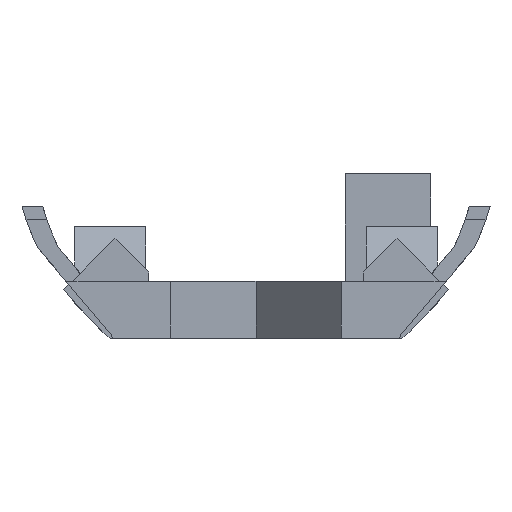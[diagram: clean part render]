
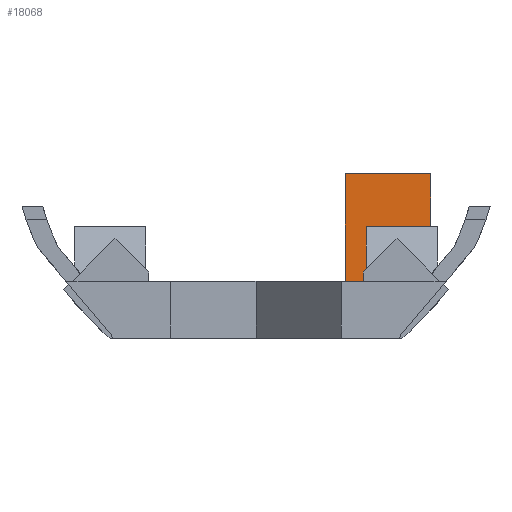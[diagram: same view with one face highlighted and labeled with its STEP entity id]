
A CAD part, left-side view. The second image highlights one B-rep face of the part: STEP entity #18068.
In plain terms, the highlighted planar face has unit normal (-1, 0, 0).
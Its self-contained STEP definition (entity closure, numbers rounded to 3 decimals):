
#32 = PLANE('',#33);
#33 = AXIS2_PLACEMENT_3D('',#34,#35,#36);
#34 = CARTESIAN_POINT('',(71.,-22.,-10.8));
#35 = DIRECTION('',(0.,0.,-1.));
#36 = DIRECTION('',(1.,0.,0.));
#1276 = PLANE('',#1277);
#1277 = AXIS2_PLACEMENT_3D('',#1278,#1279,#1280);
#1278 = CARTESIAN_POINT('',(66.,-59.724,44.8));
#1279 = DIRECTION('',(-0.,0.766,0.643));
#1280 = DIRECTION('',(0.,0.643,-0.766));
#1529 = VERTEX_POINT('',#1530);
#1530 = CARTESIAN_POINT('',(171.5,-6.9,-10.8));
#1544 = PLANE('',#1545);
#1545 = AXIS2_PLACEMENT_3D('',#1546,#1547,#1548);
#1546 = CARTESIAN_POINT('',(171.5,-6.9,-11.3));
#1547 = DIRECTION('',(-0.,1.,0.));
#1548 = DIRECTION('',(0.,0.,1.));
#1555 = EDGE_CURVE('',#1529,#1556,#1558,.T.);
#1556 = VERTEX_POINT('',#1557);
#1557 = CARTESIAN_POINT('',(171.5,-13.078,-10.8));
#1558 = SURFACE_CURVE('',#1559,(#1563,#1570),.PCURVE_S1.);
#1559 = LINE('',#1560,#1561);
#1560 = CARTESIAN_POINT('',(171.5,-17.75,-10.8));
#1561 = VECTOR('',#1562,1.);
#1562 = DIRECTION('',(0.,-1.,0.));
#1563 = PCURVE('',#32,#1564);
#1564 = DEFINITIONAL_REPRESENTATION('',(#1565),#1569);
#1565 = LINE('',#1566,#1567);
#1566 = CARTESIAN_POINT('',(100.5,-4.25));
#1567 = VECTOR('',#1568,1.);
#1568 = DIRECTION('',(0.,1.));
#1569 = ( GEOMETRIC_REPRESENTATION_CONTEXT(2) 
PARAMETRIC_REPRESENTATION_CONTEXT() REPRESENTATION_CONTEXT('2D SPACE',''
  ) );
#1570 = PCURVE('',#1571,#1576);
#1571 = PLANE('',#1572);
#1572 = AXIS2_PLACEMENT_3D('',#1573,#1574,#1575);
#1573 = CARTESIAN_POINT('',(171.5,-13.5,-11.3));
#1574 = DIRECTION('',(1.,0.,-0.));
#1575 = DIRECTION('',(0.,0.,1.));
#1576 = DEFINITIONAL_REPRESENTATION('',(#1577),#1580);
#1577 = B_SPLINE_CURVE_WITH_KNOTS('',1,(#1578,#1579),.UNSPECIFIED.,.F.,
  .F.,(2,2),(-10.85,-4.25),.PIECEWISE_BEZIER_KNOTS.);
#1578 = CARTESIAN_POINT('',(0.5,-6.6));
#1579 = CARTESIAN_POINT('',(0.5,0.));
#1580 = ( GEOMETRIC_REPRESENTATION_CONTEXT(2) 
PARAMETRIC_REPRESENTATION_CONTEXT() REPRESENTATION_CONTEXT('2D SPACE',''
  ) );
#18068 = ADVANCED_FACE('',(#18069),#1571,.F.);
#18069 = FACE_BOUND('',#18070,.F.);
#18070 = EDGE_LOOP('',(#18071,#18101,#18120,#18121,#18144));
#18071 = ORIENTED_EDGE('',*,*,#18072,.F.);
#18072 = EDGE_CURVE('',#18073,#18075,#18077,.T.);
#18073 = VERTEX_POINT('',#18074);
#18074 = CARTESIAN_POINT('',(171.5,-13.5,-10.297));
#18075 = VERTEX_POINT('',#18076);
#18076 = CARTESIAN_POINT('',(171.5,-13.5,-2.5));
#18077 = SURFACE_CURVE('',#18078,(#18082,#18089),.PCURVE_S1.);
#18078 = LINE('',#18079,#18080);
#18079 = CARTESIAN_POINT('',(171.5,-13.5,-11.3));
#18080 = VECTOR('',#18081,1.);
#18081 = DIRECTION('',(0.,0.,1.));
#18082 = PCURVE('',#1571,#18083);
#18083 = DEFINITIONAL_REPRESENTATION('',(#18084),#18088);
#18084 = LINE('',#18085,#18086);
#18085 = CARTESIAN_POINT('',(0.,0.));
#18086 = VECTOR('',#18087,1.);
#18087 = DIRECTION('',(1.,0.));
#18088 = ( GEOMETRIC_REPRESENTATION_CONTEXT(2) 
PARAMETRIC_REPRESENTATION_CONTEXT() REPRESENTATION_CONTEXT('2D SPACE',''
  ) );
#18089 = PCURVE('',#18090,#18095);
#18090 = PLANE('',#18091);
#18091 = AXIS2_PLACEMENT_3D('',#18092,#18093,#18094);
#18092 = CARTESIAN_POINT('',(171.5,-13.5,-11.3));
#18093 = DIRECTION('',(-0.,1.,0.));
#18094 = DIRECTION('',(0.,0.,1.));
#18095 = DEFINITIONAL_REPRESENTATION('',(#18096),#18100);
#18096 = LINE('',#18097,#18098);
#18097 = CARTESIAN_POINT('',(0.,0.));
#18098 = VECTOR('',#18099,1.);
#18099 = DIRECTION('',(1.,0.));
#18100 = ( GEOMETRIC_REPRESENTATION_CONTEXT(2) 
PARAMETRIC_REPRESENTATION_CONTEXT() REPRESENTATION_CONTEXT('2D SPACE',''
  ) );
#18101 = ORIENTED_EDGE('',*,*,#18102,.T.);
#18102 = EDGE_CURVE('',#18073,#1556,#18103,.T.);
#18103 = SURFACE_CURVE('',#18104,(#18108,#18114),.PCURVE_S1.);
#18104 = LINE('',#18105,#18106);
#18105 = CARTESIAN_POINT('',(171.5,-36.365,16.957));
#18106 = VECTOR('',#18107,1.);
#18107 = DIRECTION('',(-0.,0.643,-0.766));
#18108 = PCURVE('',#1571,#18109);
#18109 = DEFINITIONAL_REPRESENTATION('',(#18110),#18113);
#18110 = B_SPLINE_CURVE_WITH_KNOTS('',1,(#18111,#18112),.UNSPECIFIED.,
  .F.,.F.,(2,2),(35.575,36.232),
  .PIECEWISE_BEZIER_KNOTS.);
#18111 = CARTESIAN_POINT('',(1.003,0.));
#18112 = CARTESIAN_POINT('',(0.5,-0.422));
#18113 = ( GEOMETRIC_REPRESENTATION_CONTEXT(2) 
PARAMETRIC_REPRESENTATION_CONTEXT() REPRESENTATION_CONTEXT('2D SPACE',''
  ) );
#18114 = PCURVE('',#1276,#18115);
#18115 = DEFINITIONAL_REPRESENTATION('',(#18116),#18119);
#18116 = B_SPLINE_CURVE_WITH_KNOTS('',1,(#18117,#18118),.UNSPECIFIED.,
  .F.,.F.,(2,2),(35.575,36.232),
  .PIECEWISE_BEZIER_KNOTS.);
#18117 = CARTESIAN_POINT('',(71.919,-105.5));
#18118 = CARTESIAN_POINT('',(72.576,-105.5));
#18119 = ( GEOMETRIC_REPRESENTATION_CONTEXT(2) 
PARAMETRIC_REPRESENTATION_CONTEXT() REPRESENTATION_CONTEXT('2D SPACE',''
  ) );
#18120 = ORIENTED_EDGE('',*,*,#1555,.F.);
#18121 = ORIENTED_EDGE('',*,*,#18122,.T.);
#18122 = EDGE_CURVE('',#1529,#18123,#18125,.T.);
#18123 = VERTEX_POINT('',#18124);
#18124 = CARTESIAN_POINT('',(171.5,-6.9,-2.5));
#18125 = SURFACE_CURVE('',#18126,(#18130,#18137),.PCURVE_S1.);
#18126 = LINE('',#18127,#18128);
#18127 = CARTESIAN_POINT('',(171.5,-6.9,-11.3));
#18128 = VECTOR('',#18129,1.);
#18129 = DIRECTION('',(0.,0.,1.));
#18130 = PCURVE('',#1571,#18131);
#18131 = DEFINITIONAL_REPRESENTATION('',(#18132),#18136);
#18132 = LINE('',#18133,#18134);
#18133 = CARTESIAN_POINT('',(0.,-6.6));
#18134 = VECTOR('',#18135,1.);
#18135 = DIRECTION('',(1.,0.));
#18136 = ( GEOMETRIC_REPRESENTATION_CONTEXT(2) 
PARAMETRIC_REPRESENTATION_CONTEXT() REPRESENTATION_CONTEXT('2D SPACE',''
  ) );
#18137 = PCURVE('',#1544,#18138);
#18138 = DEFINITIONAL_REPRESENTATION('',(#18139),#18143);
#18139 = LINE('',#18140,#18141);
#18140 = CARTESIAN_POINT('',(0.,0.));
#18141 = VECTOR('',#18142,1.);
#18142 = DIRECTION('',(1.,0.));
#18143 = ( GEOMETRIC_REPRESENTATION_CONTEXT(2) 
PARAMETRIC_REPRESENTATION_CONTEXT() REPRESENTATION_CONTEXT('2D SPACE',''
  ) );
#18144 = ORIENTED_EDGE('',*,*,#18145,.F.);
#18145 = EDGE_CURVE('',#18075,#18123,#18146,.T.);
#18146 = SURFACE_CURVE('',#18147,(#18151,#18158),.PCURVE_S1.);
#18147 = LINE('',#18148,#18149);
#18148 = CARTESIAN_POINT('',(171.5,-13.5,-2.5));
#18149 = VECTOR('',#18150,1.);
#18150 = DIRECTION('',(-0.,1.,0.));
#18151 = PCURVE('',#1571,#18152);
#18152 = DEFINITIONAL_REPRESENTATION('',(#18153),#18157);
#18153 = LINE('',#18154,#18155);
#18154 = CARTESIAN_POINT('',(8.8,0.));
#18155 = VECTOR('',#18156,1.);
#18156 = DIRECTION('',(0.,-1.));
#18157 = ( GEOMETRIC_REPRESENTATION_CONTEXT(2) 
PARAMETRIC_REPRESENTATION_CONTEXT() REPRESENTATION_CONTEXT('2D SPACE',''
  ) );
#18158 = PCURVE('',#18159,#18164);
#18159 = PLANE('',#18160);
#18160 = AXIS2_PLACEMENT_3D('',#18161,#18162,#18163);
#18161 = CARTESIAN_POINT('',(171.5,-13.5,-2.5));
#18162 = DIRECTION('',(0.,0.,1.));
#18163 = DIRECTION('',(1.,0.,-0.));
#18164 = DEFINITIONAL_REPRESENTATION('',(#18165),#18169);
#18165 = LINE('',#18166,#18167);
#18166 = CARTESIAN_POINT('',(0.,0.));
#18167 = VECTOR('',#18168,1.);
#18168 = DIRECTION('',(0.,1.));
#18169 = ( GEOMETRIC_REPRESENTATION_CONTEXT(2) 
PARAMETRIC_REPRESENTATION_CONTEXT() REPRESENTATION_CONTEXT('2D SPACE',''
  ) );
